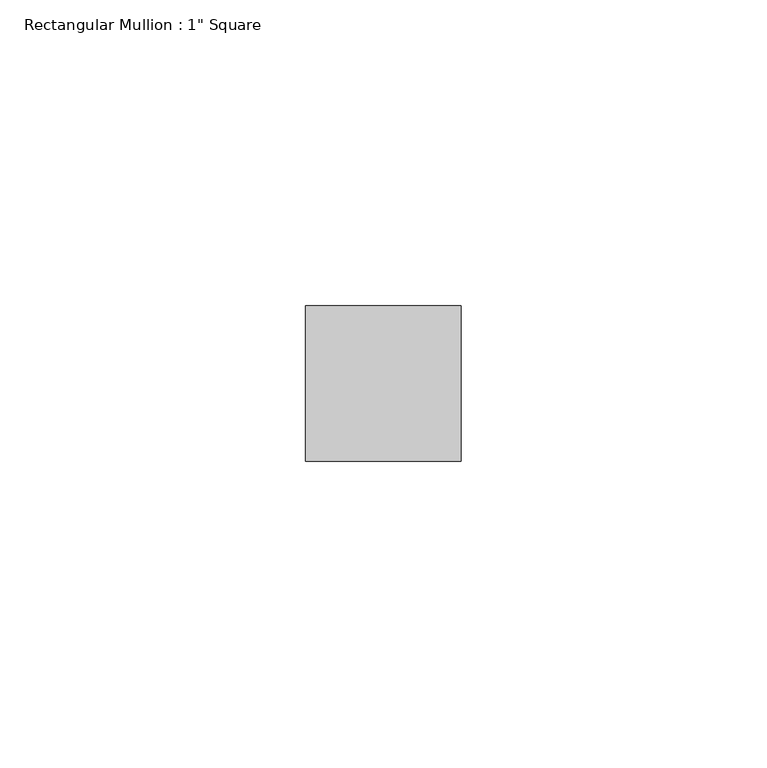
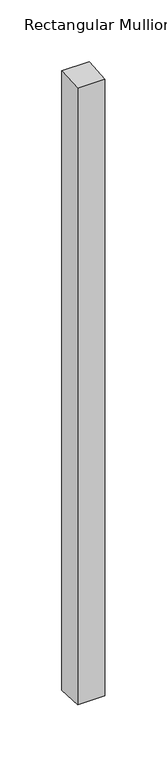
"""IFC4 building model written with IfcOpenShell, lengths in millimetres: member geometry."""

from ifc_helpers import new_model, si_unit, origin, place, context, project, spatial, faceted_brep, source, transform, mapped, element, save


def member_7149052c(model_context):
    return source(origin(), model_context, "Body", "Brep", [
        faceted_brep([(-25.4, 12.7, 0.7575106), (0.0, 12.7, 0.7587409), (0.0, 12.7, -610.3587409), (-25.4, 12.7, -610.3575106), (-25.4, -12.7, -0.7599712), (-25.4, -12.7, -608.8400288), (0.0, -12.7, -0.7587409), (0.0, -12.7, -608.8412591)], [[[0, 1, 2, 3]], [[4, 0, 3, 5]], [[6, 4, 5, 7]], [[1, 6, 7, 2]], [[1, 0, 4, 6]], [[2, 7, 5, 3]]]),
    ])


if __name__ == "__main__":
    model = new_model("IFC4")
    model_context = context("Model", 3, world=origin())
    ifc_project = project(units=[si_unit("LENGTHUNIT", "METRE", prefix="MILLI")], contexts=[model_context])
    site = spatial("IfcSite", under=ifc_project)
    building = spatial("IfcBuilding", under=site)
    placement = place(None, origin())
    member_shape = member_7149052c(model_context)
    element("IfcMember", 1, ObjectType="Rectangular Mullion : 1\" Square", at=placement, inside=building, context=model_context, shape_type="MappedRepresentation", body=[
        mapped(member_shape, transform((0.0, 0.0, 0.0), x_axis=(1.0, 0.0, 0.0), y_axis=(0.0, 1.0, 0.0), z_axis=(0.0, 0.0, 1.0))),
    ])
    save(model, "model.ifc")
